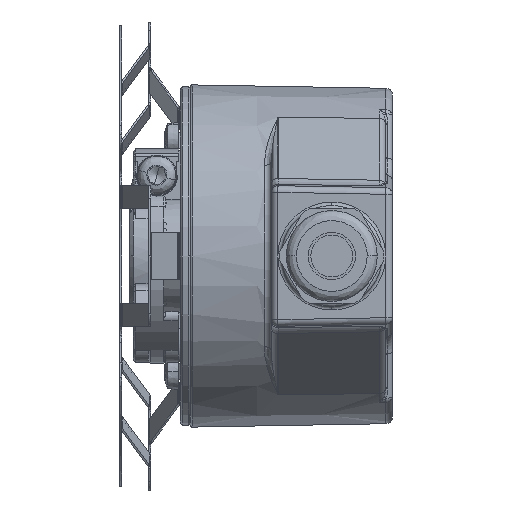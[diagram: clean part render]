
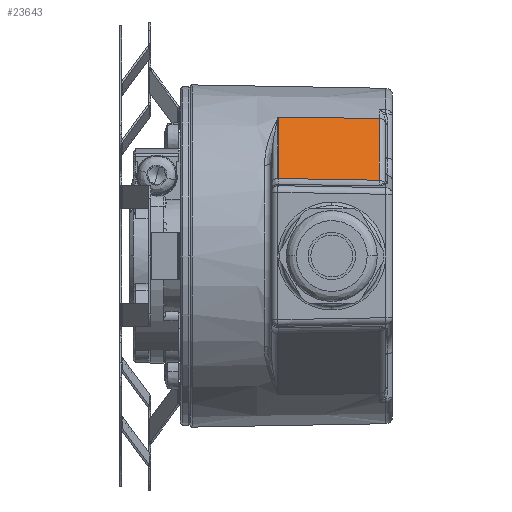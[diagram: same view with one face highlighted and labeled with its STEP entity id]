
A CAD part, front view. The second image highlights one B-rep face of the part: STEP entity #23643.
In plain terms, the highlighted planar face has unit normal (0.018, -0.574, 0.819).
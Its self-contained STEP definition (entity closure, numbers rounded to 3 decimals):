
#874 = AXIS2_PLACEMENT_3D ( 'NONE', #19357, #1375, #15408 ) ;
#1294 = CARTESIAN_POINT ( 'NONE',  ( 29.517, -14.288, 20.406 ) ) ;
#1375 = DIRECTION ( 'NONE',  ( 0.017, -0.573, 0.819 ) ) ;
#3127 = FACE_OUTER_BOUND ( 'NONE', #4323, .T. ) ;
#3800 = DIRECTION ( 'NONE',  ( 1., 0.01, -0.014 ) ) ;
#3867 = LINE ( 'NONE', #20747, #11995 ) ;
#4323 = EDGE_LOOP ( 'NONE', ( #24926, #24964, #5065, #7878 ) ) ;
#5065 = ORIENTED_EDGE ( 'NONE', *, *, #21805, .F. ) ;
#5847 = VERTEX_POINT ( 'NONE', #10915 ) ;
#5974 = VECTOR ( 'NONE', #15328, 1000. ) ;
#6469 = VERTEX_POINT ( 'NONE', #19645 ) ;
#6576 = VERTEX_POINT ( 'NONE', #16040 ) ;
#6608 = LINE ( 'NONE', #1294, #5974 ) ;
#6848 = LINE ( 'NONE', #24880, #22204 ) ;
#7878 = ORIENTED_EDGE ( 'NONE', *, *, #8191, .T. ) ;
#8191 = EDGE_CURVE ( 'NONE', #6469, #5847, #3867, .T. ) ;
#8748 = DIRECTION ( 'NONE',  ( 0., -0.819, -0.574 ) ) ;
#9583 = CARTESIAN_POINT ( 'NONE',  ( 1.5, -14.569, 20.806 ) ) ;
#10915 = CARTESIAN_POINT ( 'NONE',  ( 14.517, -27.463, 11.501 ) ) ;
#10933 = DIRECTION ( 'NONE',  ( 1., 0.007, -0.017 ) ) ;
#11775 = EDGE_CURVE ( 'NONE', #6576, #25301, #6608, .T. ) ;
#11995 = VECTOR ( 'NONE', #8748, 1000. ) ;
#13380 = PLANE ( 'NONE',  #874 ) ;
#13849 = VECTOR ( 'NONE', #3800, 1000. ) ;
#15328 = DIRECTION ( 'NONE',  ( 0., 0.819, 0.574 ) ) ;
#15408 = DIRECTION ( 'NONE',  ( 0., -0.819, -0.574 ) ) ;
#16040 = CARTESIAN_POINT ( 'NONE',  ( 29.517, -27.364, 11.25 ) ) ;
#18585 = LINE ( 'NONE', #9583, #13849 ) ;
#19357 = CARTESIAN_POINT ( 'NONE',  ( 1.5, -14.569, 20.806 ) ) ;
#19645 = CARTESIAN_POINT ( 'NONE',  ( 14.517, -14.439, 20.62 ) ) ;
#20217 = CARTESIAN_POINT ( 'NONE',  ( 29.517, -14.288, 20.406 ) ) ;
#20747 = CARTESIAN_POINT ( 'NONE',  ( 14.517, -27.459, 11.503 ) ) ;
#21805 = EDGE_CURVE ( 'NONE', #6469, #25301, #18585, .T. ) ;
#22204 = VECTOR ( 'NONE', #10933, 1000. ) ;
#23643 = ADVANCED_FACE ( 'NONE', ( #3127 ), #13380, .T. ) ;
#24008 = EDGE_CURVE ( 'NONE', #5847, #6576, #6848, .T. ) ;
#24880 = CARTESIAN_POINT ( 'NONE',  ( 30.505, -27.358, 11.234 ) ) ;
#24926 = ORIENTED_EDGE ( 'NONE', *, *, #24008, .T. ) ;
#24964 = ORIENTED_EDGE ( 'NONE', *, *, #11775, .T. ) ;
#25301 = VERTEX_POINT ( 'NONE', #20217 ) ;
